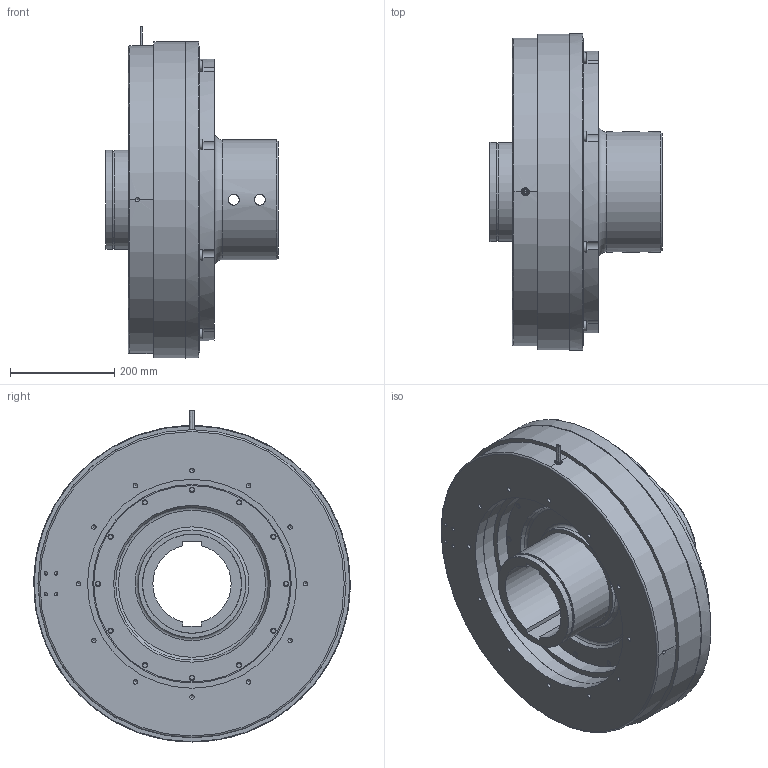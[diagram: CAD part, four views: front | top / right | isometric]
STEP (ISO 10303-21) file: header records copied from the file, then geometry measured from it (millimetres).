
FILE_DESCRIPTION(/* description */ (''),/* implementation_level */ '2;1');
FILE_NAME(/* name */ 'X:\INVENTOR\DISEGNI\08_Freni_Friz_Elettmag_Monodisco\08_26 EMSL_DF\EMSL_DF STEP\08_26_600_22 EMSL600_DF-BM-ME@STEP.stp',/* time_stamp */ '2018-04-24T09:11:06+02:00',/* author */ ('stefano'),/* organization */ (''),/* preprocessor_version */ 'ST-DEVELOPER v17',/* originating_system */ 'Autodesk Inventor 2018',/* authorisation */ '');
FILE_SCHEMA (('AUTOMOTIVE_DESIGN { 1 0 10303 214 3 1 1 }'));
Length unit declared in the file: millimetre
Products named in the file (1): 08_26_600_22 EMSL600_DF-BM-ME_Substitute_1
Bounding box: 330 x 606 x 635.72 mm (x, y, z)
Volume: 30051953.5 mm3; surface area: 2755503.5 mm2
Topology: 3 solids, 3 shells, 917 faces, 2782 edges, 1870 vertices
Faces by surface type: plane 398, cylinder 381, cone 109, torus 26, bspline 3
Full cylindrical faces by diameter (mm): 5 x16, 6.647 x4, 8.376 x14, 10 x12, 13.835 x8, 14 x16, 15 x1, 16 x12, 19.8 x16, 20 x16, 20.752 x4, 22 x16, 24 x8, 122 x8, 185 x1, 190 x3, 206 x1, 230 x1, 300 x1, 336 x1, 376 x1, 380 x1, 400 x3, 401 x1, 410 x1, 452 x2, 468 x1, 550 x1, 566 x2, 590 x1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
Entity records: 33171 total; most frequent: CARTESIAN_POINT 6327, DIRECTION 5934, ORIENTED_EDGE 5494, EDGE_CURVE 2747, AXIS2_PLACEMENT_3D 2438, VERTEX_POINT 1870, CIRCLE 1523, EDGE_LOOP 1133
